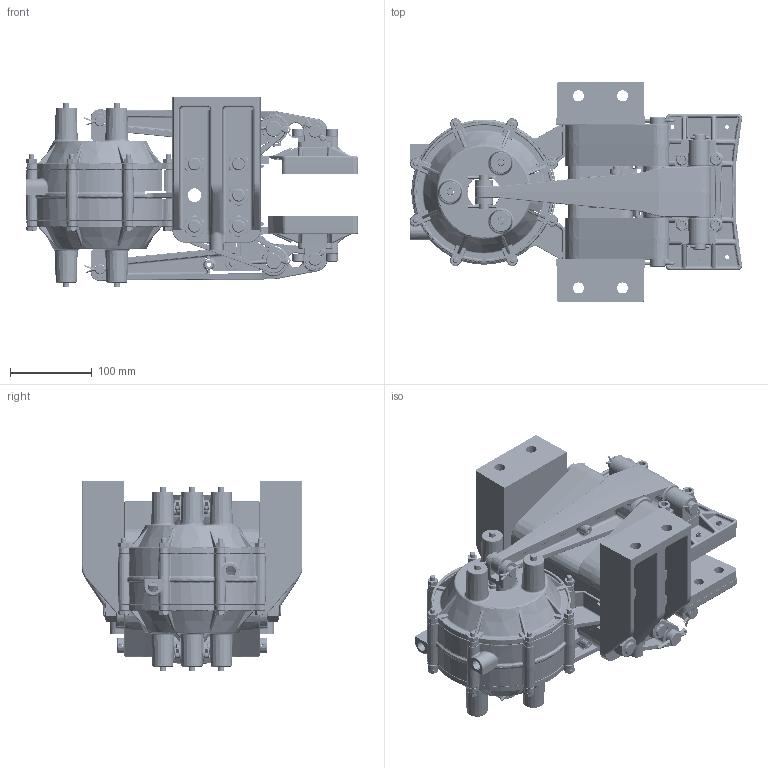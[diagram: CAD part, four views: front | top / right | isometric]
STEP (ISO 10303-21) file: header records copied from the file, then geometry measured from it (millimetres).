
FILE_DESCRIPTION (( 'STEP AP214' ), '1' );
FILE_NAME ('5023-AW.STEP', '2019-05-21T16:55:20', ( '' ), ( '' ), 'SwSTEP 2.0', 'SolidWorks 2019', '' );
FILE_SCHEMA (( 'AUTOMOTIVE_DESIGN' ));
Length unit declared in the file: inch
Products named in the file (1): 5023-AW
Bounding box: 406.24 x 269.6 x 233.62 mm (x, y, z)
Surface area: 927122.8 mm2 (no closed solid volume)
Topology: 0 solids, 174 shells, 4212 faces, 12590 edges, 8163 vertices
Faces by surface type: cylinder 1178, plane 967, bspline 922, cone 615, torus 471, sphere 59
Entity records: 274898 total; most frequent: CARTESIAN_POINT 119217, ORIENTED_EDGE 20607, DIRECTION 19777, EDGE_CURVE 12500, VERTEX_POINT 8163, AXIS2_PLACEMENT_3D 8022, CIRCLE 4731, EDGE_LOOP 4569
